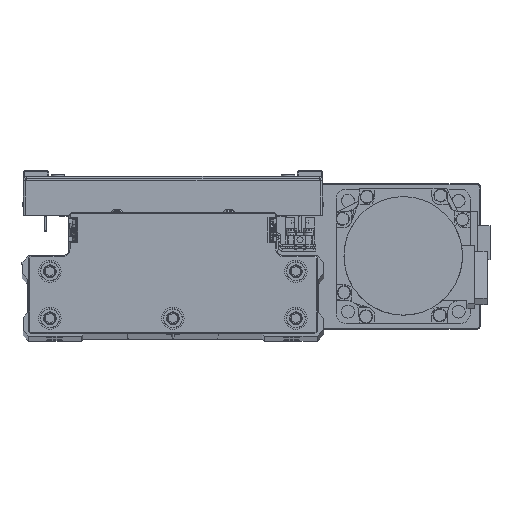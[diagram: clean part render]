
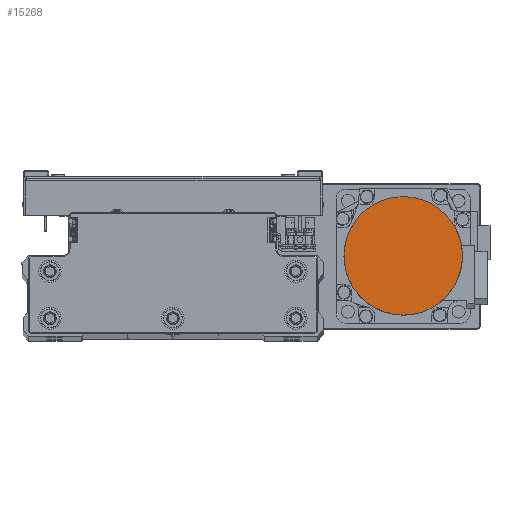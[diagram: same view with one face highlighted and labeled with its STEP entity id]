
A CAD part, top view. The second image highlights one B-rep face of the part: STEP entity #15268.
In plain terms, the highlighted planar face has unit normal (0, 0, 1) as drawn and (0, 0, -1) by its records, which use the part's own axes.
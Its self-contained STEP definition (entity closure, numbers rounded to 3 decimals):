
#2246 = CARTESIAN_POINT ( 'NONE',  ( -25.652, -6.871, -109.7 ) ) ;
#2459 = CARTESIAN_POINT ( 'NONE',  ( -1.734, -26.5, -109.7 ) ) ;
#2709 = CARTESIAN_POINT ( 'NONE',  ( 25.147, -8.539, -109.7 ) ) ;
#2940 = CARTESIAN_POINT ( 'NONE',  ( -6.871, 25.652, -109.7 ) ) ;
#3159 = CARTESIAN_POINT ( 'NONE',  ( -26.5, 1.734, -109.7 ) ) ;
#4201 = CARTESIAN_POINT ( 'NONE',  ( 26.5, 0., -109.7 ) ) ;
#5659 = CARTESIAN_POINT ( 'NONE',  ( -26.5, 0., -109.7 ) ) ;
#5869 = CARTESIAN_POINT ( 'NONE',  ( -8.539, -25.147, -109.7 ) ) ;
#6086 = CARTESIAN_POINT ( 'NONE',  ( 21.07, -16.165, -109.7 ) ) ;
#6353 = CARTESIAN_POINT ( 'NONE',  ( 1.734, 26.5, -109.7 ) ) ;
#6519 = CARTESIAN_POINT ( 'NONE',  ( 0., 0., -109.7 ) ) ;
#6572 = CARTESIAN_POINT ( 'NONE',  ( -25.147, 8.539, -109.7 ) ) ;
#6977 = CARTESIAN_POINT ( 'NONE',  ( 17.512, 19.965, -109.7 ) ) ;
#9265 = CARTESIAN_POINT ( 'NONE',  ( -16.165, -21.07, -109.7 ) ) ;
#9286 = EDGE_LOOP ( 'NONE', ( #17447, #13630 ) ) ;
#9470 = CARTESIAN_POINT ( 'NONE',  ( 16.165, -21.07, -109.7 ) ) ;
#9708 = CARTESIAN_POINT ( 'NONE',  ( 8.539, 25.147, -109.7 ) ) ;
#9953 = CARTESIAN_POINT ( 'NONE',  ( -21.07, 16.165, -109.7 ) ) ;
#10332 = CARTESIAN_POINT ( 'NONE',  ( 22.998, 13.28, -109.7 ) ) ;
#12217 = EDGE_CURVE ( 'NONE', #42524, #37539, #18534, .T. ) ;
#12612 = CARTESIAN_POINT ( 'NONE',  ( -21.07, -16.165, -109.7 ) ) ;
#12856 = CARTESIAN_POINT ( 'NONE',  ( 8.539, -25.147, -109.7 ) ) ;
#13065 = CARTESIAN_POINT ( 'NONE',  ( 26.5, 0., -109.7 ) ) ;
#13081 = CARTESIAN_POINT ( 'NONE',  ( 16.165, 21.07, -109.7 ) ) ;
#13302 = CARTESIAN_POINT ( 'NONE',  ( -16.165, 21.07, -109.7 ) ) ;
#13630 = ORIENTED_EDGE ( 'NONE', *, *, #12217, .F. ) ;
#13717 = CARTESIAN_POINT ( 'NONE',  ( 25.652, 6.871, -109.7 ) ) ;
#15268 = ADVANCED_FACE ( 'NONE', ( #27044 ), #37419, .F. ) ;
#15987 = CARTESIAN_POINT ( 'NONE',  ( -25.147, -8.539, -109.7 ) ) ;
#16222 = CARTESIAN_POINT ( 'NONE',  ( 1.734, -26.5, -109.7 ) ) ;
#16466 = CARTESIAN_POINT ( 'NONE',  ( 25.652, -6.871, -109.7 ) ) ;
#16696 = CARTESIAN_POINT ( 'NONE',  ( -8.539, 25.147, -109.7 ) ) ;
#16917 = CARTESIAN_POINT ( 'NONE',  ( -26.5, 0., -109.7 ) ) ;
#17108 = CARTESIAN_POINT ( 'NONE',  ( 26.5, 0., -109.7 ) ) ;
#17447 = ORIENTED_EDGE ( 'NONE', *, *, #35422, .F. ) ;
#18534 = B_SPLINE_CURVE_WITH_KNOTS ( 'NONE', 3,
 ( #5659, #19415, #33187, #2246, #15987, #29798, #43528, #12612, #26426, #40166, #9265, #23033, #36777, #5869, #19626, #33396, #2459, #16222, #30039, #43783, #12856, #26650, #40384, #9470, #23242, #36991, #6086, #19854, #33639, #2709, #16466, #30273, #44001, #13065 ),
 .UNSPECIFIED., .F., .F.,
 ( 4, 2, 2, 2, 2, 2, 2, 2, 2, 2, 2, 2, 2, 2, 2, 2, 4 ),
 ( 0., 0.063, 0.125, 0.188, 0.25, 0.312, 0.375, 0.437, 0.5, 0.562, 0.625, 0.687, 0.75, 0.813, 0.875, 0.938, 1. ),
 .UNSPECIFIED. ) ;
#19415 = CARTESIAN_POINT ( 'NONE',  ( -26.5, -1.734, -109.7 ) ) ;
#19626 = CARTESIAN_POINT ( 'NONE',  ( -6.871, -25.652, -109.7 ) ) ;
#19854 = CARTESIAN_POINT ( 'NONE',  ( 22.998, -13.28, -109.7 ) ) ;
#20109 = CARTESIAN_POINT ( 'NONE',  ( -1.734, 26.5, -109.7 ) ) ;
#20267 = DIRECTION ( 'NONE',  ( 0., 0., 1. ) ) ;
#20322 = CARTESIAN_POINT ( 'NONE',  ( -25.652, 6.871, -109.7 ) ) ;
#23033 = CARTESIAN_POINT ( 'NONE',  ( -13.28, -22.998, -109.7 ) ) ;
#23242 = CARTESIAN_POINT ( 'NONE',  ( 17.512, -19.965, -109.7 ) ) ;
#23492 = CARTESIAN_POINT ( 'NONE',  ( 6.871, 25.652, -109.7 ) ) ;
#23731 = CARTESIAN_POINT ( 'NONE',  ( -22.998, 13.28, -109.7 ) ) ;
#23861 = CARTESIAN_POINT ( 'NONE',  ( -26.5, 0., -109.7 ) ) ;
#24108 = CARTESIAN_POINT ( 'NONE',  ( 21.07, 16.165, -109.7 ) ) ;
#24331 = B_SPLINE_CURVE_WITH_KNOTS ( 'NONE', 3,
 ( #17108, #30914, #25912, #13717, #27509, #41249, #10332, #24108, #37862, #6977, #13081, #26872, #40609, #9708, #23492, #37252, #6353, #20109, #33885, #2940, #16696, #30497, #44230, #13302, #27109, #40857, #9953, #23731, #37477, #6572, #20322, #34098, #3159, #16917 ),
 .UNSPECIFIED., .F., .F.,
 ( 4, 2, 2, 2, 2, 2, 2, 2, 2, 2, 2, 2, 2, 2, 2, 2, 4 ),
 ( 0., 0.062, 0.125, 0.187, 0.25, 0.312, 0.375, 0.437, 0.5, 0.562, 0.625, 0.687, 0.75, 0.813, 0.875, 0.938, 1. ),
 .UNSPECIFIED. ) ;
#25912 = CARTESIAN_POINT ( 'NONE',  ( 26.329, 3.469, -109.7 ) ) ;
#26426 = CARTESIAN_POINT ( 'NONE',  ( -19.965, -17.512, -109.7 ) ) ;
#26650 = CARTESIAN_POINT ( 'NONE',  ( 11.744, -23.819, -109.7 ) ) ;
#26872 = CARTESIAN_POINT ( 'NONE',  ( 13.28, 22.998, -109.7 ) ) ;
#27044 = FACE_OUTER_BOUND ( 'NONE', #9286, .T. ) ;
#27109 = CARTESIAN_POINT ( 'NONE',  ( -17.512, 19.965, -109.7 ) ) ;
#27509 = CARTESIAN_POINT ( 'NONE',  ( 25.147, 8.539, -109.7 ) ) ;
#29798 = CARTESIAN_POINT ( 'NONE',  ( -23.819, -11.744, -109.7 ) ) ;
#30039 = CARTESIAN_POINT ( 'NONE',  ( 3.469, -26.329, -109.7 ) ) ;
#30046 = AXIS2_PLACEMENT_3D ( 'NONE', #6519, #20267, #34039 ) ;
#30273 = CARTESIAN_POINT ( 'NONE',  ( 26.329, -3.469, -109.7 ) ) ;
#30497 = CARTESIAN_POINT ( 'NONE',  ( -11.744, 23.819, -109.7 ) ) ;
#30914 = CARTESIAN_POINT ( 'NONE',  ( 26.5, 1.734, -109.7 ) ) ;
#33187 = CARTESIAN_POINT ( 'NONE',  ( -26.329, -3.469, -109.7 ) ) ;
#33396 = CARTESIAN_POINT ( 'NONE',  ( -3.469, -26.329, -109.7 ) ) ;
#33639 = CARTESIAN_POINT ( 'NONE',  ( 23.819, -11.744, -109.7 ) ) ;
#33885 = CARTESIAN_POINT ( 'NONE',  ( -3.469, 26.329, -109.7 ) ) ;
#34039 = DIRECTION ( 'NONE',  ( 1., 0., 0. ) ) ;
#34098 = CARTESIAN_POINT ( 'NONE',  ( -26.329, 3.469, -109.7 ) ) ;
#35422 = EDGE_CURVE ( 'NONE', #37539, #42524, #24331, .T. ) ;
#36777 = CARTESIAN_POINT ( 'NONE',  ( -11.744, -23.819, -109.7 ) ) ;
#36991 = CARTESIAN_POINT ( 'NONE',  ( 19.965, -17.512, -109.7 ) ) ;
#37252 = CARTESIAN_POINT ( 'NONE',  ( 3.469, 26.329, -109.7 ) ) ;
#37419 = PLANE ( 'NONE',  #30046 ) ;
#37477 = CARTESIAN_POINT ( 'NONE',  ( -23.819, 11.744, -109.7 ) ) ;
#37539 = VERTEX_POINT ( 'NONE', #4201 ) ;
#37862 = CARTESIAN_POINT ( 'NONE',  ( 19.965, 17.512, -109.7 ) ) ;
#40166 = CARTESIAN_POINT ( 'NONE',  ( -17.512, -19.965, -109.7 ) ) ;
#40384 = CARTESIAN_POINT ( 'NONE',  ( 13.28, -22.998, -109.7 ) ) ;
#40609 = CARTESIAN_POINT ( 'NONE',  ( 11.744, 23.819, -109.7 ) ) ;
#40857 = CARTESIAN_POINT ( 'NONE',  ( -19.965, 17.512, -109.7 ) ) ;
#41249 = CARTESIAN_POINT ( 'NONE',  ( 23.819, 11.744, -109.7 ) ) ;
#42524 = VERTEX_POINT ( 'NONE', #23861 ) ;
#43528 = CARTESIAN_POINT ( 'NONE',  ( -22.998, -13.28, -109.7 ) ) ;
#43783 = CARTESIAN_POINT ( 'NONE',  ( 6.871, -25.652, -109.7 ) ) ;
#44001 = CARTESIAN_POINT ( 'NONE',  ( 26.5, -1.734, -109.7 ) ) ;
#44230 = CARTESIAN_POINT ( 'NONE',  ( -13.28, 22.998, -109.7 ) ) ;
